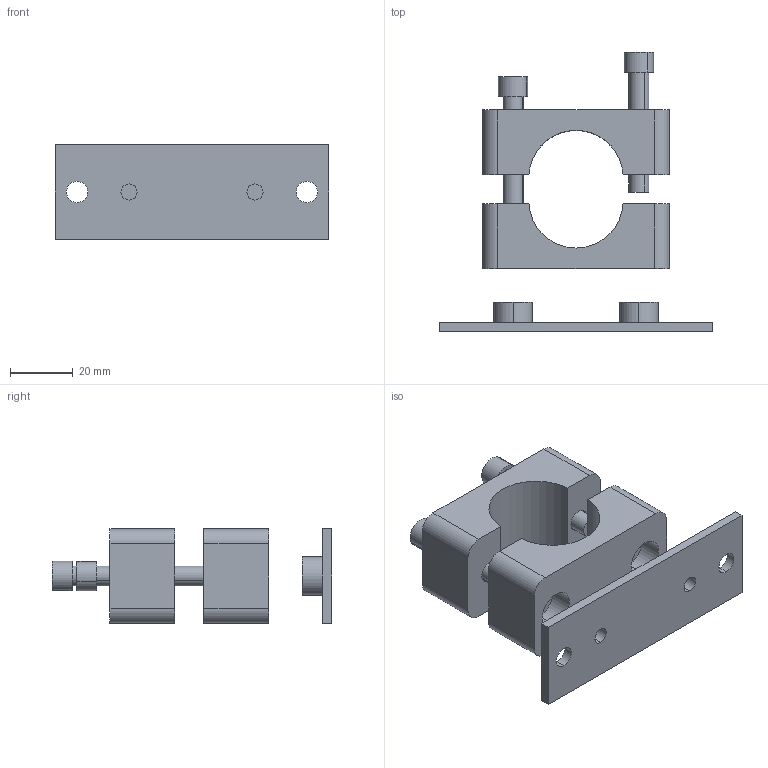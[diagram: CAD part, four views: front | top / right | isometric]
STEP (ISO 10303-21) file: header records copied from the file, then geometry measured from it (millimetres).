
FILE_DESCRIPTION (( 'STEP AP203' ), '1' );
FILE_NAME ('BMS-3-30.STEP', '2011-01-11T23:20:14', ( 'George' ), ( 'SoftNoze' ), 'SwSTEP 2.0', 'SolidWorks 2007', '' );
FILE_SCHEMA (( 'CONFIG_CONTROL_DESIGN' ));
Length unit declared in the file: inch
Products named in the file (4): BMS-3-30; PLATE30; BLOCK; 25SCREW
Assembly tree (5 placements, depth 2):
  BMS-3-30
    25SCREW  x2
    BLOCK  x2
    PLATE30
Bounding box: 87 x 88.84 x 30 mm (x, y, z)
Volume: 59381.3 mm3; surface area: 24537.1 mm2
Topology: 5 solids, 5 shells, 92 faces, 216 edges, 144 vertices
Faces by surface type: cylinder 46, plane 46
Entity records: 2144 total; most frequent: DIRECTION 318, CARTESIAN_POINT 284, ORIENTED_EDGE 264, EDGE_CURVE 132, AXIS2_PLACEMENT_3D 122, VERTEX_POINT 88, EDGE_LOOP 74, VECTOR 74
